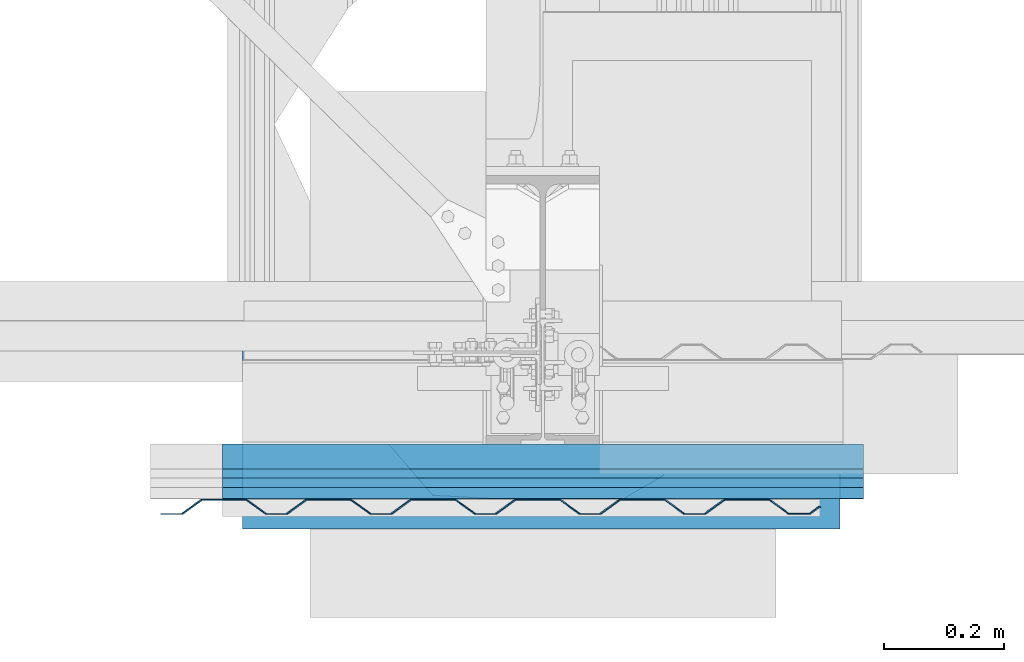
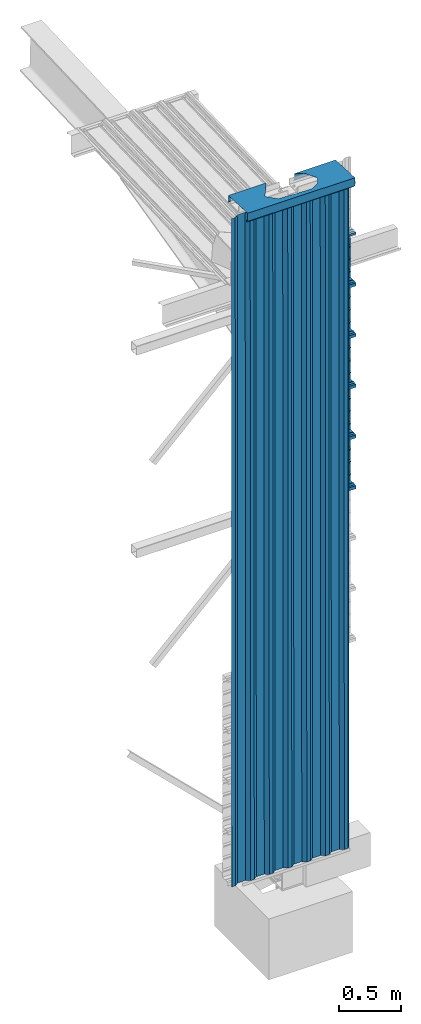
# One storey, part 5 of 21: 7 beams.
"""IFC2X3 building model written with IfcOpenShell, lengths in millimetres."""

from ifc_helpers import new_model, si_unit, frame, origin_with_axes, place, context, project, spatial, faceted_brep, material, type_object, element, save


model = new_model("IFC2X3")

# Units and contexts
model_context_1 = context("Model", 3, precision=1e-05, world=origin_with_axes(), identifier="Body")
model_context_2 = context("Model", 3, precision=1e-05, world=origin_with_axes())
ifc_project = project(units=[si_unit("LENGTHUNIT", "METRE", prefix="MILLI"), si_unit("AREAUNIT", "SQUARE_METRE"), si_unit("VOLUMEUNIT", "CUBIC_METRE"), si_unit("MASSUNIT", "GRAM", prefix="KILO"), si_unit("TIMEUNIT", "SECOND"), si_unit("PLANEANGLEUNIT", "RADIAN"), si_unit("SOLIDANGLEUNIT", "STERADIAN"), si_unit("THERMODYNAMICTEMPERATUREUNIT", "DEGREE_CELSIUS"), si_unit("LUMINOUSINTENSITYUNIT", "LUMEN")], contexts=[model_context_1, model_context_2])

# Site, building, storey
site_placement = place(None, origin_with_axes())
site = spatial("IfcSite", under=ifc_project, at=site_placement, Name="Undefined", CompositionType="ELEMENT")
building_placement = place(site_placement, origin_with_axes())
building = spatial("IfcBuilding", under=site, at=building_placement, Name="Undefined", CompositionType="ELEMENT")
storey_placement = place(building_placement, origin_with_axes())
storey = spatial("IfcBuildingStorey", under=building, at=storey_placement, Name="Undefined", CompositionType="ELEMENT")

# Beams
ifc_material = material(Name="STEEL/S235JR")
beam_type_1 = type_object("IfcBeamType", Name="ARCLAD_FPB_MURESCO_1.500.90_BS_75", PredefinedType="NOTDEFINED")
beam_1_placement = place(storey_placement, frame((-536.5, -270.91227, 3779.9985), z_axis=(4.4408925e-19, 1.0, 3.1900003e-05), x_axis=(1.0, 0.0, 0.0)))
element("IfcBeam", 1, at=beam_1_placement, inside=storey, type_object=beam_type_1, material=ifc_material, Name="bac", ObjectType="ARCLAD_FPB_MURESCO_1.500.90_BS_75", context=model_context_1, shape_type="Brep", body=[
    faceted_brep([(0.0, 278.0, -36.0), (0.0, 278.0, -45.0), (1073.0, 278.0, -45.0), (1073.0, 278.0, -36.0), (0.0, 250.0, -45.0), (1073.0, 250.0, -45.0), (0.0, 250.0, -26.110001), (1073.0, 250.0, -26.110001), (0.0, 242.17, -10.67), (1073.0, 242.17, -10.67), (0.0, 250.0, 4.7800002), (1073.0, 250.0, 4.7800002), (0.0, 250.0, 46.0), (1073.0, 250.0, 46.0), (0.0, 200.44, 46.0), (1073.0, 200.44, 46.0), (0.0, 185.0, 38.169998), (1073.0, 185.0, 38.169998), (0.0, 169.56, 46.0), (1073.0, 169.56, 46.0), (0.0, 77.110001, 46.0), (1073.0, 77.110001, 46.0), (0.0, 61.669998, 38.169998), (1073.0, 61.669998, 38.169998), (0.0, 46.220001, 46.0), (1073.0, 46.220001, 46.0), (0.0, -46.220001, 46.0), (1073.0, -46.220001, 46.0), (0.0, -61.669998, 38.169998), (1073.0, -61.669998, 38.169998), (0.0, -77.110001, 46.0), (1073.0, -77.110001, 46.0), (0.0, -169.56, 46.0), (1073.0, -169.56, 46.0), (0.0, -185.0, 38.169998), (1073.0, -185.0, 38.169998), (0.0, -200.44, 46.0), (1073.0, -200.44, 46.0), (0.0, -250.0, 46.0), (1073.0, -250.0, 46.0), (0.0, -250.0, 4.7800002), (1073.0, -250.0, 4.7800002), (0.0, -242.17, -10.67), (1073.0, -242.17, -10.67), (0.0, -250.0, -26.110001), (1073.0, -250.0, -26.110001), (0.0, -250.0, -45.0), (1073.0, -250.0, -45.0), (0.0, -230.0, -45.0), (1073.0, -230.0, -45.0), (0.0, -225.35001, -41.540001), (1073.0, -225.35001, -41.540001), (0.0, -225.95, -40.740002), (1073.0, -225.95, -40.740002), (0.0, -230.33, -44.0), (1073.0, -230.33, -44.0), (0.0, -249.0, -44.0), (1073.0, -249.0, -44.0), (0.0, -249.0, -26.35), (1073.0, -249.0, -26.35), (0.0, -241.05, -10.67), (1073.0, -241.05, -10.67), (0.0, -249.0, 5.02), (1073.0, -249.0, 5.02), (0.0, -249.0, 45.0), (1073.0, -249.0, 45.0), (0.0, -200.67999, 45.0), (1073.0, -200.67999, 45.0), (0.0, -185.0, 37.049999), (1073.0, -185.0, 37.049999), (0.0, -169.32001, 45.0), (1073.0, -169.32001, 45.0), (0.0, -77.349998, 45.0), (1073.0, -77.349998, 45.0), (0.0, -61.669998, 37.049999), (1073.0, -61.669998, 37.049999), (0.0, -45.98, 45.0), (1073.0, -45.98, 45.0), (0.0, 45.98, 45.0), (1073.0, 45.98, 45.0), (0.0, 61.669998, 37.049999), (1073.0, 61.669998, 37.049999), (0.0, 77.349998, 45.0), (1073.0, 77.349998, 45.0), (0.0, 169.32001, 45.0), (1073.0, 169.32001, 45.0), (0.0, 185.0, 37.049999), (1073.0, 185.0, 37.049999), (0.0, 200.67999, 45.0), (1073.0, 200.67999, 45.0), (0.0, 249.0, 45.0), (1073.0, 249.0, 45.0), (0.0, 249.0, 5.02), (1073.0, 249.0, 5.02), (0.0, 241.05, -10.67), (1073.0, 241.05, -10.67), (0.0, 249.0, -26.35), (1073.0, 249.0, -26.35), (0.0, 249.0, -46.0), (1073.0, 249.0, -46.0), (0.0, 279.0, -46.0), (1073.0, 279.0, -46.0), (0.0, 279.0, -36.0), (1073.0, 279.0, -36.0)], [[[0, 1, 2, 3]], [[1, 4, 5, 2]], [[4, 6, 7, 5]], [[6, 8, 9, 7]], [[8, 10, 11, 9]], [[10, 12, 13, 11]], [[12, 14, 15, 13]], [[14, 16, 17, 15]], [[16, 18, 19, 17]], [[18, 20, 21, 19]], [[20, 22, 23, 21]], [[22, 24, 25, 23]], [[24, 26, 27, 25]], [[26, 28, 29, 27]], [[28, 30, 31, 29]], [[30, 32, 33, 31]], [[32, 34, 35, 33]], [[34, 36, 37, 35]], [[36, 38, 39, 37]], [[38, 40, 41, 39]], [[40, 42, 43, 41]], [[42, 44, 45, 43]], [[44, 46, 47, 45]], [[46, 48, 49, 47]], [[48, 50, 51, 49]], [[50, 52, 53, 51]], [[52, 54, 55, 53]], [[54, 56, 57, 55]], [[56, 58, 59, 57]], [[58, 60, 61, 59]], [[60, 62, 63, 61]], [[62, 64, 65, 63]], [[64, 66, 67, 65]], [[66, 68, 69, 67]], [[68, 70, 71, 69]], [[70, 72, 73, 71]], [[72, 74, 75, 73]], [[74, 76, 77, 75]], [[76, 78, 79, 77]], [[78, 80, 81, 79]], [[80, 82, 83, 81]], [[82, 84, 85, 83]], [[84, 86, 87, 85]], [[86, 88, 89, 87]], [[88, 90, 91, 89]], [[90, 92, 93, 91]], [[92, 94, 95, 93]], [[94, 96, 97, 95]], [[96, 98, 99, 97]], [[98, 100, 101, 99]], [[100, 102, 103, 101]], [[102, 0, 3, 103]], [[5, 7, 9, 11, 13, 15, 17, 19, 21, 23, 25, 27, 29, 31, 33, 35, 37, 39, 41, 43, 45, 47, 49, 51, 53, 55, 57, 59, 61, 63, 65, 67, 69, 71, 73, 75, 77, 79, 81, 83, 85, 87, 89, 91, 93, 95, 97, 99, 101, 103, 3, 2]], [[102, 100, 98, 96, 94, 92, 90, 88, 86, 84, 82, 80, 78, 76, 74, 72, 70, 68, 66, 64, 62, 60, 58, 56, 54, 52, 50, 48, 46, 44, 42, 40, 38, 36, 34, 32, 30, 28, 26, 24, 22, 20, 18, 16, 14, 12, 10, 8, 6, 4, 1, 0]]]),
])
beam_2_placement = place(storey_placement, frame((-536.5, -270.92822, 4279.9985), z_axis=(4.4408925e-19, 1.0, 3.1900003e-05), x_axis=(1.0, 0.0, 0.0)))
element("IfcBeam", 2, at=beam_2_placement, inside=storey, type_object=beam_type_1, material=ifc_material, Name="bac", ObjectType="ARCLAD_FPB_MURESCO_1.500.90_BS_75", context=model_context_1, shape_type="Brep", body=[
    faceted_brep([(0.0, 278.0, -36.0), (0.0, 278.0, -45.0), (1073.0, 278.0, -45.0), (1073.0, 278.0, -36.0), (0.0, 250.0, -45.0), (1073.0, 250.0, -45.0), (0.0, 250.0, -26.110001), (1073.0, 250.0, -26.110001), (0.0, 242.17, -10.67), (1073.0, 242.17, -10.67), (0.0, 250.0, 4.7800002), (1073.0, 250.0, 4.7800002), (0.0, 250.0, 46.0), (1073.0, 250.0, 46.0), (0.0, 200.44, 46.0), (1073.0, 200.44, 46.0), (0.0, 185.0, 38.169998), (1073.0, 185.0, 38.169998), (0.0, 169.56, 46.0), (1073.0, 169.56, 46.0), (0.0, 77.110001, 46.0), (1073.0, 77.110001, 46.0), (0.0, 61.669998, 38.169998), (1073.0, 61.669998, 38.169998), (0.0, 46.220001, 46.0), (1073.0, 46.220001, 46.0), (0.0, -46.220001, 46.0), (1073.0, -46.220001, 46.0), (0.0, -61.669998, 38.169998), (1073.0, -61.669998, 38.169998), (0.0, -77.110001, 46.0), (1073.0, -77.110001, 46.0), (0.0, -169.56, 46.0), (1073.0, -169.56, 46.0), (0.0, -185.0, 38.169998), (1073.0, -185.0, 38.169998), (0.0, -200.44, 46.0), (1073.0, -200.44, 46.0), (0.0, -250.0, 46.0), (1073.0, -250.0, 46.0), (0.0, -250.0, 4.7800002), (1073.0, -250.0, 4.7800002), (0.0, -242.17, -10.67), (1073.0, -242.17, -10.67), (0.0, -250.0, -26.110001), (1073.0, -250.0, -26.110001), (0.0, -250.0, -45.0), (1073.0, -250.0, -45.0), (0.0, -230.0, -45.0), (1073.0, -230.0, -45.0), (0.0, -225.35001, -41.540001), (1073.0, -225.35001, -41.540001), (0.0, -225.95, -40.740002), (1073.0, -225.95, -40.740002), (0.0, -230.33, -44.0), (1073.0, -230.33, -44.0), (0.0, -249.0, -44.0), (1073.0, -249.0, -44.0), (0.0, -249.0, -26.35), (1073.0, -249.0, -26.35), (0.0, -241.05, -10.67), (1073.0, -241.05, -10.67), (0.0, -249.0, 5.02), (1073.0, -249.0, 5.02), (0.0, -249.0, 45.0), (1073.0, -249.0, 45.0), (0.0, -200.67999, 45.0), (1073.0, -200.67999, 45.0), (0.0, -185.0, 37.049999), (1073.0, -185.0, 37.049999), (0.0, -169.32001, 45.0), (1073.0, -169.32001, 45.0), (0.0, -77.349998, 45.0), (1073.0, -77.349998, 45.0), (0.0, -61.669998, 37.049999), (1073.0, -61.669998, 37.049999), (0.0, -45.98, 45.0), (1073.0, -45.98, 45.0), (0.0, 45.98, 45.0), (1073.0, 45.98, 45.0), (0.0, 61.669998, 37.049999), (1073.0, 61.669998, 37.049999), (0.0, 77.349998, 45.0), (1073.0, 77.349998, 45.0), (0.0, 169.32001, 45.0), (1073.0, 169.32001, 45.0), (0.0, 185.0, 37.049999), (1073.0, 185.0, 37.049999), (0.0, 200.67999, 45.0), (1073.0, 200.67999, 45.0), (0.0, 249.0, 45.0), (1073.0, 249.0, 45.0), (0.0, 249.0, 5.02), (1073.0, 249.0, 5.02), (0.0, 241.05, -10.67), (1073.0, 241.05, -10.67), (0.0, 249.0, -26.35), (1073.0, 249.0, -26.35), (0.0, 249.0, -46.0), (1073.0, 249.0, -46.0), (0.0, 279.0, -46.0), (1073.0, 279.0, -46.0), (0.0, 279.0, -36.0), (1073.0, 279.0, -36.0)], [[[0, 1, 2, 3]], [[1, 4, 5, 2]], [[4, 6, 7, 5]], [[6, 8, 9, 7]], [[8, 10, 11, 9]], [[10, 12, 13, 11]], [[12, 14, 15, 13]], [[14, 16, 17, 15]], [[16, 18, 19, 17]], [[18, 20, 21, 19]], [[20, 22, 23, 21]], [[22, 24, 25, 23]], [[24, 26, 27, 25]], [[26, 28, 29, 27]], [[28, 30, 31, 29]], [[30, 32, 33, 31]], [[32, 34, 35, 33]], [[34, 36, 37, 35]], [[36, 38, 39, 37]], [[38, 40, 41, 39]], [[40, 42, 43, 41]], [[42, 44, 45, 43]], [[44, 46, 47, 45]], [[46, 48, 49, 47]], [[48, 50, 51, 49]], [[50, 52, 53, 51]], [[52, 54, 55, 53]], [[54, 56, 57, 55]], [[56, 58, 59, 57]], [[58, 60, 61, 59]], [[60, 62, 63, 61]], [[62, 64, 65, 63]], [[64, 66, 67, 65]], [[66, 68, 69, 67]], [[68, 70, 71, 69]], [[70, 72, 73, 71]], [[72, 74, 75, 73]], [[74, 76, 77, 75]], [[76, 78, 79, 77]], [[78, 80, 81, 79]], [[80, 82, 83, 81]], [[82, 84, 85, 83]], [[84, 86, 87, 85]], [[86, 88, 89, 87]], [[88, 90, 91, 89]], [[90, 92, 93, 91]], [[92, 94, 95, 93]], [[94, 96, 97, 95]], [[96, 98, 99, 97]], [[98, 100, 101, 99]], [[100, 102, 103, 101]], [[102, 0, 3, 103]], [[5, 7, 9, 11, 13, 15, 17, 19, 21, 23, 25, 27, 29, 31, 33, 35, 37, 39, 41, 43, 45, 47, 49, 51, 53, 55, 57, 59, 61, 63, 65, 67, 69, 71, 73, 75, 77, 79, 81, 83, 85, 87, 89, 91, 93, 95, 97, 99, 101, 103, 3, 2]], [[102, 100, 98, 96, 94, 92, 90, 88, 86, 84, 82, 80, 78, 76, 74, 72, 70, 68, 66, 64, 62, 60, 58, 56, 54, 52, 50, 48, 46, 44, 42, 40, 38, 36, 34, 32, 30, 28, 26, 24, 22, 20, 18, 16, 14, 12, 10, 8, 6, 4, 1, 0]]]),
])
beam_3_placement = place(storey_placement, frame((-536.5, -270.94417, 4779.9985), z_axis=(4.4408925e-19, 1.0, 3.1900003e-05), x_axis=(1.0, 0.0, 0.0)))
element("IfcBeam", 3, at=beam_3_placement, inside=storey, type_object=beam_type_1, material=ifc_material, Name="bac", ObjectType="ARCLAD_FPB_MURESCO_1.500.90_BS_75", context=model_context_1, shape_type="Brep", body=[
    faceted_brep([(0.0, 278.0, -36.0), (0.0, 278.0, -45.0), (1073.0, 278.0, -45.0), (1073.0, 278.0, -36.0), (0.0, 250.0, -45.0), (1073.0, 250.0, -45.0), (0.0, 250.0, -26.110001), (1073.0, 250.0, -26.110001), (0.0, 242.17, -10.67), (1073.0, 242.17, -10.67), (0.0, 250.0, 4.7800002), (1073.0, 250.0, 4.7800002), (0.0, 250.0, 46.0), (1073.0, 250.0, 46.0), (0.0, 200.44, 46.0), (1073.0, 200.44, 46.0), (0.0, 185.0, 38.169998), (1073.0, 185.0, 38.169998), (0.0, 169.56, 46.0), (1073.0, 169.56, 46.0), (0.0, 77.110001, 46.0), (1073.0, 77.110001, 46.0), (0.0, 61.669998, 38.169998), (1073.0, 61.669998, 38.169998), (0.0, 46.220001, 46.0), (1073.0, 46.220001, 46.0), (0.0, -46.220001, 46.0), (1073.0, -46.220001, 46.0), (0.0, -61.669998, 38.169998), (1073.0, -61.669998, 38.169998), (0.0, -77.110001, 46.0), (1073.0, -77.110001, 46.0), (0.0, -169.56, 46.0), (1073.0, -169.56, 46.0), (0.0, -185.0, 38.169998), (1073.0, -185.0, 38.169998), (0.0, -200.44, 46.0), (1073.0, -200.44, 46.0), (0.0, -250.0, 46.0), (1073.0, -250.0, 46.0), (0.0, -250.0, 4.7800002), (1073.0, -250.0, 4.7800002), (0.0, -242.17, -10.67), (1073.0, -242.17, -10.67), (0.0, -250.0, -26.110001), (1073.0, -250.0, -26.110001), (0.0, -250.0, -45.0), (1073.0, -250.0, -45.0), (0.0, -230.0, -45.0), (1073.0, -230.0, -45.0), (0.0, -225.35001, -41.540001), (1073.0, -225.35001, -41.540001), (0.0, -225.95, -40.740002), (1073.0, -225.95, -40.740002), (0.0, -230.33, -44.0), (1073.0, -230.33, -44.0), (0.0, -249.0, -44.0), (1073.0, -249.0, -44.0), (0.0, -249.0, -26.35), (1073.0, -249.0, -26.35), (0.0, -241.05, -10.67), (1073.0, -241.05, -10.67), (0.0, -249.0, 5.02), (1073.0, -249.0, 5.02), (0.0, -249.0, 45.0), (1073.0, -249.0, 45.0), (0.0, -200.67999, 45.0), (1073.0, -200.67999, 45.0), (0.0, -185.0, 37.049999), (1073.0, -185.0, 37.049999), (0.0, -169.32001, 45.0), (1073.0, -169.32001, 45.0), (0.0, -77.349998, 45.0), (1073.0, -77.349998, 45.0), (0.0, -61.669998, 37.049999), (1073.0, -61.669998, 37.049999), (0.0, -45.98, 45.0), (1073.0, -45.98, 45.0), (0.0, 45.98, 45.0), (1073.0, 45.98, 45.0), (0.0, 61.669998, 37.049999), (1073.0, 61.669998, 37.049999), (0.0, 77.349998, 45.0), (1073.0, 77.349998, 45.0), (0.0, 169.32001, 45.0), (1073.0, 169.32001, 45.0), (0.0, 185.0, 37.049999), (1073.0, 185.0, 37.049999), (0.0, 200.67999, 45.0), (1073.0, 200.67999, 45.0), (0.0, 249.0, 45.0), (1073.0, 249.0, 45.0), (0.0, 249.0, 5.02), (1073.0, 249.0, 5.02), (0.0, 241.05, -10.67), (1073.0, 241.05, -10.67), (0.0, 249.0, -26.35), (1073.0, 249.0, -26.35), (0.0, 249.0, -46.0), (1073.0, 249.0, -46.0), (0.0, 279.0, -46.0), (1073.0, 279.0, -46.0), (0.0, 279.0, -36.0), (1073.0, 279.0, -36.0)], [[[0, 1, 2, 3]], [[1, 4, 5, 2]], [[4, 6, 7, 5]], [[6, 8, 9, 7]], [[8, 10, 11, 9]], [[10, 12, 13, 11]], [[12, 14, 15, 13]], [[14, 16, 17, 15]], [[16, 18, 19, 17]], [[18, 20, 21, 19]], [[20, 22, 23, 21]], [[22, 24, 25, 23]], [[24, 26, 27, 25]], [[26, 28, 29, 27]], [[28, 30, 31, 29]], [[30, 32, 33, 31]], [[32, 34, 35, 33]], [[34, 36, 37, 35]], [[36, 38, 39, 37]], [[38, 40, 41, 39]], [[40, 42, 43, 41]], [[42, 44, 45, 43]], [[44, 46, 47, 45]], [[46, 48, 49, 47]], [[48, 50, 51, 49]], [[50, 52, 53, 51]], [[52, 54, 55, 53]], [[54, 56, 57, 55]], [[56, 58, 59, 57]], [[58, 60, 61, 59]], [[60, 62, 63, 61]], [[62, 64, 65, 63]], [[64, 66, 67, 65]], [[66, 68, 69, 67]], [[68, 70, 71, 69]], [[70, 72, 73, 71]], [[72, 74, 75, 73]], [[74, 76, 77, 75]], [[76, 78, 79, 77]], [[78, 80, 81, 79]], [[80, 82, 83, 81]], [[82, 84, 85, 83]], [[84, 86, 87, 85]], [[86, 88, 89, 87]], [[88, 90, 91, 89]], [[90, 92, 93, 91]], [[92, 94, 95, 93]], [[94, 96, 97, 95]], [[96, 98, 99, 97]], [[98, 100, 101, 99]], [[100, 102, 103, 101]], [[102, 0, 3, 103]], [[5, 7, 9, 11, 13, 15, 17, 19, 21, 23, 25, 27, 29, 31, 33, 35, 37, 39, 41, 43, 45, 47, 49, 51, 53, 55, 57, 59, 61, 63, 65, 67, 69, 71, 73, 75, 77, 79, 81, 83, 85, 87, 89, 91, 93, 95, 97, 99, 101, 103, 3, 2]], [[102, 100, 98, 96, 94, 92, 90, 88, 86, 84, 82, 80, 78, 76, 74, 72, 70, 68, 66, 64, 62, 60, 58, 56, 54, 52, 50, 48, 46, 44, 42, 40, 38, 36, 34, 32, 30, 28, 26, 24, 22, 20, 18, 16, 14, 12, 10, 8, 6, 4, 1, 0]]]),
])
beam_4_placement = place(storey_placement, frame((-536.5, -270.96012, 5279.9985), z_axis=(4.4408925e-19, 1.0, 3.1900003e-05), x_axis=(1.0, 0.0, 0.0)))
element("IfcBeam", 4, at=beam_4_placement, inside=storey, type_object=beam_type_1, material=ifc_material, Name="bac", ObjectType="ARCLAD_FPB_MURESCO_1.500.90_BS_75", context=model_context_1, shape_type="Brep", body=[
    faceted_brep([(0.0, 278.0, -36.0), (0.0, 278.0, -45.0), (1073.0, 278.0, -45.0), (1073.0, 278.0, -36.0), (0.0, 250.0, -45.0), (1073.0, 250.0, -45.0), (0.0, 250.0, -26.110001), (1073.0, 250.0, -26.110001), (0.0, 242.17, -10.67), (1073.0, 242.17, -10.67), (0.0, 250.0, 4.7800002), (1073.0, 250.0, 4.7800002), (0.0, 250.0, 46.0), (1073.0, 250.0, 46.0), (0.0, 200.44, 46.0), (1073.0, 200.44, 46.0), (0.0, 185.0, 38.169998), (1073.0, 185.0, 38.169998), (0.0, 169.56, 46.0), (1073.0, 169.56, 46.0), (0.0, 77.110001, 46.0), (1073.0, 77.110001, 46.0), (0.0, 61.669998, 38.169998), (1073.0, 61.669998, 38.169998), (0.0, 46.220001, 46.0), (1073.0, 46.220001, 46.0), (0.0, -46.220001, 46.0), (1073.0, -46.220001, 46.0), (0.0, -61.669998, 38.169998), (1073.0, -61.669998, 38.169998), (0.0, -77.110001, 46.0), (1073.0, -77.110001, 46.0), (0.0, -169.56, 46.0), (1073.0, -169.56, 46.0), (0.0, -185.0, 38.169998), (1073.0, -185.0, 38.169998), (0.0, -200.44, 46.0), (1073.0, -200.44, 46.0), (0.0, -250.0, 46.0), (1073.0, -250.0, 46.0), (0.0, -250.0, 4.7800002), (1073.0, -250.0, 4.7800002), (0.0, -242.17, -10.67), (1073.0, -242.17, -10.67), (0.0, -250.0, -26.110001), (1073.0, -250.0, -26.110001), (0.0, -250.0, -45.0), (1073.0, -250.0, -45.0), (0.0, -230.0, -45.0), (1073.0, -230.0, -45.0), (0.0, -225.35001, -41.540001), (1073.0, -225.35001, -41.540001), (0.0, -225.95, -40.740002), (1073.0, -225.95, -40.740002), (0.0, -230.33, -44.0), (1073.0, -230.33, -44.0), (0.0, -249.0, -44.0), (1073.0, -249.0, -44.0), (0.0, -249.0, -26.35), (1073.0, -249.0, -26.35), (0.0, -241.05, -10.67), (1073.0, -241.05, -10.67), (0.0, -249.0, 5.02), (1073.0, -249.0, 5.02), (0.0, -249.0, 45.0), (1073.0, -249.0, 45.0), (0.0, -200.67999, 45.0), (1073.0, -200.67999, 45.0), (0.0, -185.0, 37.049999), (1073.0, -185.0, 37.049999), (0.0, -169.32001, 45.0), (1073.0, -169.32001, 45.0), (0.0, -77.349998, 45.0), (1073.0, -77.349998, 45.0), (0.0, -61.669998, 37.049999), (1073.0, -61.669998, 37.049999), (0.0, -45.98, 45.0), (1073.0, -45.98, 45.0), (0.0, 45.98, 45.0), (1073.0, 45.98, 45.0), (0.0, 61.669998, 37.049999), (1073.0, 61.669998, 37.049999), (0.0, 77.349998, 45.0), (1073.0, 77.349998, 45.0), (0.0, 169.32001, 45.0), (1073.0, 169.32001, 45.0), (0.0, 185.0, 37.049999), (1073.0, 185.0, 37.049999), (0.0, 200.67999, 45.0), (1073.0, 200.67999, 45.0), (0.0, 249.0, 45.0), (1073.0, 249.0, 45.0), (0.0, 249.0, 5.02), (1073.0, 249.0, 5.02), (0.0, 241.05, -10.67), (1073.0, 241.05, -10.67), (0.0, 249.0, -26.35), (1073.0, 249.0, -26.35), (0.0, 249.0, -46.0), (1073.0, 249.0, -46.0), (0.0, 279.0, -46.0), (1073.0, 279.0, -46.0), (0.0, 279.0, -36.0), (1073.0, 279.0, -36.0)], [[[0, 1, 2, 3]], [[1, 4, 5, 2]], [[4, 6, 7, 5]], [[6, 8, 9, 7]], [[8, 10, 11, 9]], [[10, 12, 13, 11]], [[12, 14, 15, 13]], [[14, 16, 17, 15]], [[16, 18, 19, 17]], [[18, 20, 21, 19]], [[20, 22, 23, 21]], [[22, 24, 25, 23]], [[24, 26, 27, 25]], [[26, 28, 29, 27]], [[28, 30, 31, 29]], [[30, 32, 33, 31]], [[32, 34, 35, 33]], [[34, 36, 37, 35]], [[36, 38, 39, 37]], [[38, 40, 41, 39]], [[40, 42, 43, 41]], [[42, 44, 45, 43]], [[44, 46, 47, 45]], [[46, 48, 49, 47]], [[48, 50, 51, 49]], [[50, 52, 53, 51]], [[52, 54, 55, 53]], [[54, 56, 57, 55]], [[56, 58, 59, 57]], [[58, 60, 61, 59]], [[60, 62, 63, 61]], [[62, 64, 65, 63]], [[64, 66, 67, 65]], [[66, 68, 69, 67]], [[68, 70, 71, 69]], [[70, 72, 73, 71]], [[72, 74, 75, 73]], [[74, 76, 77, 75]], [[76, 78, 79, 77]], [[78, 80, 81, 79]], [[80, 82, 83, 81]], [[82, 84, 85, 83]], [[84, 86, 87, 85]], [[86, 88, 89, 87]], [[88, 90, 91, 89]], [[90, 92, 93, 91]], [[92, 94, 95, 93]], [[94, 96, 97, 95]], [[96, 98, 99, 97]], [[98, 100, 101, 99]], [[100, 102, 103, 101]], [[102, 0, 3, 103]], [[5, 7, 9, 11, 13, 15, 17, 19, 21, 23, 25, 27, 29, 31, 33, 35, 37, 39, 41, 43, 45, 47, 49, 51, 53, 55, 57, 59, 61, 63, 65, 67, 69, 71, 73, 75, 77, 79, 81, 83, 85, 87, 89, 91, 93, 95, 97, 99, 101, 103, 3, 2]], [[102, 100, 98, 96, 94, 92, 90, 88, 86, 84, 82, 80, 78, 76, 74, 72, 70, 68, 66, 64, 62, 60, 58, 56, 54, 52, 50, 48, 46, 44, 42, 40, 38, 36, 34, 32, 30, 28, 26, 24, 22, 20, 18, 16, 14, 12, 10, 8, 6, 4, 1, 0]]]),
])
beam_5_placement = place(storey_placement, frame((-536.5, -270.97607, 5779.9985), z_axis=(4.4408925e-19, 1.0, 3.1900003e-05), x_axis=(1.0, 0.0, 0.0)))
element("IfcBeam", 5, at=beam_5_placement, inside=storey, type_object=beam_type_1, material=ifc_material, Name="bac", ObjectType="ARCLAD_FPB_MURESCO_1.500.90_BS_75", context=model_context_1, shape_type="Brep", body=[
    faceted_brep([(0.0, 278.0, -36.0), (0.0, 278.0, -45.0), (1073.0, 278.0, -45.0), (1073.0, 278.0, -36.0), (0.0, 250.0, -45.0), (1073.0, 250.0, -45.0), (0.0, 250.0, -26.110001), (1073.0, 250.0, -26.110001), (0.0, 242.17, -10.67), (1073.0, 242.17, -10.67), (0.0, 250.0, 4.7800002), (1073.0, 250.0, 4.7800002), (0.0, 250.0, 46.0), (1073.0, 250.0, 46.0), (0.0, 200.44, 46.0), (1073.0, 200.44, 46.0), (0.0, 185.0, 38.169998), (1073.0, 185.0, 38.169998), (0.0, 169.56, 46.0), (1073.0, 169.56, 46.0), (0.0, 77.110001, 46.0), (1073.0, 77.110001, 46.0), (0.0, 61.669998, 38.169998), (1073.0, 61.669998, 38.169998), (0.0, 46.220001, 46.0), (1073.0, 46.220001, 46.0), (0.0, -46.220001, 46.0), (1073.0, -46.220001, 46.0), (0.0, -61.669998, 38.169998), (1073.0, -61.669998, 38.169998), (0.0, -77.110001, 46.0), (1073.0, -77.110001, 46.0), (0.0, -169.56, 46.0), (1073.0, -169.56, 46.0), (0.0, -185.0, 38.169998), (1073.0, -185.0, 38.169998), (0.0, -200.44, 46.0), (1073.0, -200.44, 46.0), (0.0, -250.0, 46.0), (1073.0, -250.0, 46.0), (0.0, -250.0, 4.7800002), (1073.0, -250.0, 4.7800002), (0.0, -242.17, -10.67), (1073.0, -242.17, -10.67), (0.0, -250.0, -26.110001), (1073.0, -250.0, -26.110001), (0.0, -250.0, -45.0), (1073.0, -250.0, -45.0), (0.0, -230.0, -45.0), (1073.0, -230.0, -45.0), (0.0, -225.35001, -41.540001), (1073.0, -225.35001, -41.540001), (0.0, -225.95, -40.740002), (1073.0, -225.95, -40.740002), (0.0, -230.33, -44.0), (1073.0, -230.33, -44.0), (0.0, -249.0, -44.0), (1073.0, -249.0, -44.0), (0.0, -249.0, -26.35), (1073.0, -249.0, -26.35), (0.0, -241.05, -10.67), (1073.0, -241.05, -10.67), (0.0, -249.0, 5.02), (1073.0, -249.0, 5.02), (0.0, -249.0, 45.0), (1073.0, -249.0, 45.0), (0.0, -200.67999, 45.0), (1073.0, -200.67999, 45.0), (0.0, -185.0, 37.049999), (1073.0, -185.0, 37.049999), (0.0, -169.32001, 45.0), (1073.0, -169.32001, 45.0), (0.0, -77.349998, 45.0), (1073.0, -77.349998, 45.0), (0.0, -61.669998, 37.049999), (1073.0, -61.669998, 37.049999), (0.0, -45.98, 45.0), (1073.0, -45.98, 45.0), (0.0, 45.98, 45.0), (1073.0, 45.98, 45.0), (0.0, 61.669998, 37.049999), (1073.0, 61.669998, 37.049999), (0.0, 77.349998, 45.0), (1073.0, 77.349998, 45.0), (0.0, 169.32001, 45.0), (1073.0, 169.32001, 45.0), (0.0, 185.0, 37.049999), (1073.0, 185.0, 37.049999), (0.0, 200.67999, 45.0), (1073.0, 200.67999, 45.0), (0.0, 249.0, 45.0), (1073.0, 249.0, 45.0), (0.0, 249.0, 5.02), (1073.0, 249.0, 5.02), (0.0, 241.05, -10.67), (1073.0, 241.05, -10.67), (0.0, 249.0, -26.35), (1073.0, 249.0, -26.35), (0.0, 249.0, -46.0), (1073.0, 249.0, -46.0), (0.0, 279.0, -46.0), (1073.0, 279.0, -46.0), (0.0, 279.0, -36.0), (1073.0, 279.0, -36.0)], [[[0, 1, 2, 3]], [[1, 4, 5, 2]], [[4, 6, 7, 5]], [[6, 8, 9, 7]], [[8, 10, 11, 9]], [[10, 12, 13, 11]], [[12, 14, 15, 13]], [[14, 16, 17, 15]], [[16, 18, 19, 17]], [[18, 20, 21, 19]], [[20, 22, 23, 21]], [[22, 24, 25, 23]], [[24, 26, 27, 25]], [[26, 28, 29, 27]], [[28, 30, 31, 29]], [[30, 32, 33, 31]], [[32, 34, 35, 33]], [[34, 36, 37, 35]], [[36, 38, 39, 37]], [[38, 40, 41, 39]], [[40, 42, 43, 41]], [[42, 44, 45, 43]], [[44, 46, 47, 45]], [[46, 48, 49, 47]], [[48, 50, 51, 49]], [[50, 52, 53, 51]], [[52, 54, 55, 53]], [[54, 56, 57, 55]], [[56, 58, 59, 57]], [[58, 60, 61, 59]], [[60, 62, 63, 61]], [[62, 64, 65, 63]], [[64, 66, 67, 65]], [[66, 68, 69, 67]], [[68, 70, 71, 69]], [[70, 72, 73, 71]], [[72, 74, 75, 73]], [[74, 76, 77, 75]], [[76, 78, 79, 77]], [[78, 80, 81, 79]], [[80, 82, 83, 81]], [[82, 84, 85, 83]], [[84, 86, 87, 85]], [[86, 88, 89, 87]], [[88, 90, 91, 89]], [[90, 92, 93, 91]], [[92, 94, 95, 93]], [[94, 96, 97, 95]], [[96, 98, 99, 97]], [[98, 100, 101, 99]], [[100, 102, 103, 101]], [[102, 0, 3, 103]], [[5, 7, 9, 11, 13, 15, 17, 19, 21, 23, 25, 27, 29, 31, 33, 35, 37, 39, 41, 43, 45, 47, 49, 51, 53, 55, 57, 59, 61, 63, 65, 67, 69, 71, 73, 75, 77, 79, 81, 83, 85, 87, 89, 91, 93, 95, 97, 99, 101, 103, 3, 2]], [[102, 100, 98, 96, 94, 92, 90, 88, 86, 84, 82, 80, 78, 76, 74, 72, 70, 68, 66, 64, 62, 60, 58, 56, 54, 52, 50, 48, 46, 44, 42, 40, 38, 36, 34, 32, 30, 28, 26, 24, 22, 20, 18, 16, 14, 12, 10, 8, 6, 4, 1, 0]]]),
])
beam_type_2 = type_object("IfcBeamType", Name="0.6*505.4", PredefinedType="NOTDEFINED")
beam_6_placement = place(storey_placement, frame((-2.3499999, -46.203656, 6523.2704), z_axis=(1.0, 0.0, 0.0), x_axis=(-1.1376716e-13, -0.47005813, 0.88263546)))
element("IfcBeam", 6, at=beam_6_placement, inside=storey, type_object=beam_type_2, material=ifc_material, Name="coiffe", ObjectType="0.6*505.4", context=model_context_1, shape_type="Brep", body=[
    faceted_brep([(67.561969, -28.516787, 119.97589), (14.602965, -0.31500102, 114.336), (-2.2278073e-08, -0.315, 103.22177), (2.1729647e-08, 0.315, 103.99619), (14.760253, 0.31499897, 115.23013), (67.327993, -27.678431, 120.82836), (92.89571, 15.252496, 193.06041), (93.433906, 14.924957, 193.0674), (-2.163415e-08, -0.315, -141.12808), (14.602965, -0.31500102, -145.80873), (67.561969, -28.516787, -147.32834), (155.35332, 118.89427, -256.25232), (154.81513, 119.2218, -256.25931), (67.327993, -27.678431, -147.71279), (14.760253, 0.31499897, -146.2044), (2.2376298e-08, 0.315, -141.47334), (199.57642, 193.14957, -181.88537), (199.03822, 193.47711, -181.89236), (207.70705, 206.80176, 119.67455), (207.16885, 207.1293, 119.66756), (182.88903, 165.12966, 202.95043), (182.35084, 165.4572, 202.94344), (147.61189, 105.89557, 243.63128), (147.07369, 106.22311, 243.62428), (-1.1373658e-10, -0.315, -500.0), (-1.1383605e-10, 0.315, -500.0), (14.760253, 0.31499897, -500.0), (14.602965, -0.31500102, -500.0), (1.1374368e-10, 0.315, 500.0), (1.1384316e-10, -0.315, 500.0), (14.602965, -0.31500102, 500.0), (14.760253, 0.31499897, 500.0), (67.561969, -28.516787, 500.0), (67.327993, -27.678431, 500.0), (228.51547, 241.74132, 500.0), (227.63608, 241.49596, 500.0), (227.63608, 241.49596, -500.0), (158.16811, 278.50053, 500.0), (158.16811, 278.50053, -500.0), (148.76049, 260.83977, 500.0), (148.76049, 260.83977, -500.0), (157.90827, 279.35275, 500.0), (148.50061, 261.69192, 500.0), (228.51547, 241.74132, -500.0), (157.90827, 279.35275, -500.0), (148.50061, 261.69192, -500.0), (130.8476, 271.09252, -500.0), (130.8476, 271.09252, 500.0), (130.55148, 270.53645, 500.0), (130.55148, 270.53645, -500.0), (67.561969, -28.516787, -500.0), (67.327993, -27.678431, -500.0)], [[[0, 1, 2, 3, 4, 5, 6, 7]], [[8, 9, 10, 11, 12, 13, 14, 15]], [[16, 17, 12, 11]], [[18, 19, 17, 16]], [[20, 21, 19, 18]], [[22, 23, 21, 20]], [[7, 6, 23, 22]], [[24, 25, 26, 27]], [[28, 29, 30, 31]], [[31, 30, 32, 33]], [[33, 32, 34, 35]], [[36, 35, 37, 38]], [[38, 37, 39, 40]], [[37, 41, 42, 39]], [[35, 34, 41, 37]], [[34, 43, 44, 41]], [[41, 44, 45, 42]], [[42, 45, 46, 47]], [[39, 42, 47, 48]], [[40, 39, 48, 49]], [[47, 46, 49, 48]], [[45, 40, 49, 46]], [[44, 38, 40, 45]], [[43, 36, 38, 44]], [[50, 51, 36, 43]], [[27, 26, 51, 50]], [[27, 50, 10, 9]], [[24, 27, 9, 8]], [[25, 24, 8, 15]], [[26, 25, 15, 14]], [[51, 26, 14, 13]], [[5, 33, 35, 36, 51, 13, 12, 17, 19, 21, 23, 6]], [[31, 33, 5, 4]], [[28, 31, 4, 3]], [[29, 28, 3, 2]], [[30, 29, 2, 1]], [[32, 30, 1, 0]], [[18, 16, 11, 10, 50, 43, 34, 32, 0, 7, 22, 20]]]),
])
beam_type_3 = type_object("IfcBeamType", Name="ARVAL_FBV_HACIERBA_6.175.25_B_63", PredefinedType="NOTDEFINED")
beam_7_placement = place(storey_placement, frame((-94.482958, -329.96932, 0.074168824), z_axis=(-0.00011230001, 0.99999999, -8.2800008e-05), x_axis=(-0.0004229, 8.2700001e-05, 0.99999991)))
element("IfcBeam", 7, at=beam_7_placement, inside=storey, type_object=beam_type_3, material=ifc_material, Name="contrebardage", ObjectType="ARVAL_FBV_HACIERBA_6.175.25_B_63", context=model_context_1, shape_type="Brep", body=[
    faceted_brep([(2.6254163e-08, 558.51001, 0.5), (-6.0384574e-07, 542.02002, -11.5), (6590.004, 542.02002, -11.5), (6590.004, 558.51001, 0.5), (-6.0384574e-07, 507.98001, -11.5), (6590.004, 507.98001, -11.5), (6.5635406e-07, 475.0, 12.5), (6590.004, 475.0, 12.5), (6.5635406e-07, 400.0, 12.5), (6590.004, 400.0, 12.5), (-6.0384574e-07, 367.01999, -11.5), (6590.004, 367.01999, -11.5), (-6.0384574e-07, 332.98001, -11.5), (6590.004, 332.98001, -11.5), (6.5635406e-07, 300.0, 12.5), (6590.004, 300.0, 12.5), (6.5635406e-07, 225.0, 12.5), (6590.004, 225.0, 12.5), (-6.0384574e-07, 192.02, -11.5), (6590.004, 192.02, -11.5), (-6.0384574e-07, 157.98, -11.5), (6590.004, 157.98, -11.5), (6.5635406e-07, 125.0, 12.5), (6590.004, 125.0, 12.5), (6.5635406e-07, 50.0, 12.5), (6590.004, 50.0, 12.5), (-6.0384574e-07, 17.02, -11.5), (6590.004, 17.02, -11.5), (-6.0384574e-07, -17.02, -11.5), (6590.004, -17.02, -11.5), (6.5635406e-07, -50.0, 12.5), (6590.004, -50.0, 12.5), (6.5635406e-07, -125.0, 12.5), (6590.004, -125.0, 12.5), (-6.0384574e-07, -157.98, -11.5), (6590.004, -157.98, -11.5), (-6.0384574e-07, -192.02, -11.5), (6590.004, -192.02, -11.5), (6.5635406e-07, -225.0, 12.5), (6590.004, -225.0, 12.5), (6.5635406e-07, -300.0, 12.5), (6590.004, -300.0, 12.5), (-6.0384574e-07, -332.98001, -11.5), (6590.004, -332.98001, -11.5), (-6.0384574e-07, -367.01999, -11.5), (6590.004, -367.01999, -11.5), (6.5635406e-07, -400.0, 12.5), (6590.004, -400.0, 12.5), (6.5635406e-07, -475.0, 12.5), (6590.004, -475.0, 12.5), (-6.0384574e-07, -507.98001, -11.5), (6590.004, -507.98001, -11.5), (-6.0384574e-07, -542.5, -11.5), (6590.004, -542.5, -11.5), (-6.5635406e-07, -542.5, -12.5), (6590.004, -542.5, -12.5), (-6.5635406e-07, -507.5, -12.5), (6590.004, -507.5, -12.5), (6.0384574e-07, -474.51999, 11.5), (6590.004, -474.51999, 11.5), (6.0384574e-07, -400.48001, 11.5), (6590.004, -400.48001, 11.5), (-6.5635406e-07, -367.5, -12.5), (6590.004, -367.5, -12.5), (-6.5635406e-07, -332.5, -12.5), (6590.004, -332.5, -12.5), (6.0384574e-07, -299.51999, 11.5), (6590.004, -299.51999, 11.5), (6.0384574e-07, -225.48, 11.5), (6590.004, -225.48, 11.5), (-6.5635406e-07, -192.5, -12.5), (6590.004, -192.5, -12.5), (-6.5635406e-07, -157.5, -12.5), (6590.004, -157.5, -12.5), (6.0384574e-07, -124.52, 11.5), (6590.004, -124.52, 11.5), (6.0384574e-07, -50.48, 11.5), (6590.004, -50.48, 11.5), (-6.5635406e-07, -17.5, -12.5), (6590.004, -17.5, -12.5), (-6.5635406e-07, 17.5, -12.5), (6590.004, 17.5, -12.5), (6.0384574e-07, 50.48, 11.5), (6590.004, 50.48, 11.5), (6.0384574e-07, 124.52, 11.5), (6590.004, 124.52, 11.5), (-6.5635406e-07, 157.5, -12.5), (6590.004, 157.5, -12.5), (-6.5635406e-07, 192.5, -12.5), (6590.004, 192.5, -12.5), (6.0384574e-07, 225.48, 11.5), (6590.004, 225.48, 11.5), (6.0384574e-07, 299.51999, 11.5), (6590.004, 299.51999, 11.5), (-6.5635406e-07, 332.5, -12.5), (6590.004, 332.5, -12.5), (-6.5635406e-07, 367.5, -12.5), (6590.004, 367.5, -12.5), (6.0384574e-07, 400.48001, 11.5), (6590.004, 400.48001, 11.5), (6.0384574e-07, 474.51999, 11.5), (6590.004, 474.51999, 11.5), (-6.5635406e-07, 507.5, -12.5), (6590.004, 507.5, -12.5), (-6.5635406e-07, 542.5, -12.5), (6590.004, 542.5, -12.5), (-1.9953163e-08, 559.15002, -0.38), (6590.004, 559.15002, -0.38)], [[[0, 1, 2, 3]], [[1, 4, 5, 2]], [[4, 6, 7, 5]], [[6, 8, 9, 7]], [[8, 10, 11, 9]], [[10, 12, 13, 11]], [[12, 14, 15, 13]], [[14, 16, 17, 15]], [[16, 18, 19, 17]], [[18, 20, 21, 19]], [[20, 22, 23, 21]], [[22, 24, 25, 23]], [[24, 26, 27, 25]], [[26, 28, 29, 27]], [[28, 30, 31, 29]], [[30, 32, 33, 31]], [[32, 34, 35, 33]], [[34, 36, 37, 35]], [[36, 38, 39, 37]], [[38, 40, 41, 39]], [[40, 42, 43, 41]], [[42, 44, 45, 43]], [[44, 46, 47, 45]], [[46, 48, 49, 47]], [[48, 50, 51, 49]], [[50, 52, 53, 51]], [[52, 54, 55, 53]], [[54, 56, 57, 55]], [[56, 58, 59, 57]], [[58, 60, 61, 59]], [[60, 62, 63, 61]], [[62, 64, 65, 63]], [[64, 66, 67, 65]], [[66, 68, 69, 67]], [[68, 70, 71, 69]], [[70, 72, 73, 71]], [[72, 74, 75, 73]], [[74, 76, 77, 75]], [[76, 78, 79, 77]], [[78, 80, 81, 79]], [[80, 82, 83, 81]], [[82, 84, 85, 83]], [[84, 86, 87, 85]], [[86, 88, 89, 87]], [[88, 90, 91, 89]], [[90, 92, 93, 91]], [[92, 94, 95, 93]], [[94, 96, 97, 95]], [[96, 98, 99, 97]], [[98, 100, 101, 99]], [[100, 102, 103, 101]], [[102, 104, 105, 103]], [[104, 106, 107, 105]], [[106, 0, 3, 107]], [[5, 7, 9, 11, 13, 15, 17, 19, 21, 23, 25, 27, 29, 31, 33, 35, 37, 39, 41, 43, 45, 47, 49, 51, 53, 55, 57, 59, 61, 63, 65, 67, 69, 71, 73, 75, 77, 79, 81, 83, 85, 87, 89, 91, 93, 95, 97, 99, 101, 103, 105, 107, 3, 2]], [[106, 104, 102, 100, 98, 96, 94, 92, 90, 88, 86, 84, 82, 80, 78, 76, 74, 72, 70, 68, 66, 64, 62, 60, 58, 56, 54, 52, 50, 48, 46, 44, 42, 40, 38, 36, 34, 32, 30, 28, 26, 24, 22, 20, 18, 16, 14, 12, 10, 8, 6, 4, 1, 0]]]),
])

save(model, "model.ifc")
